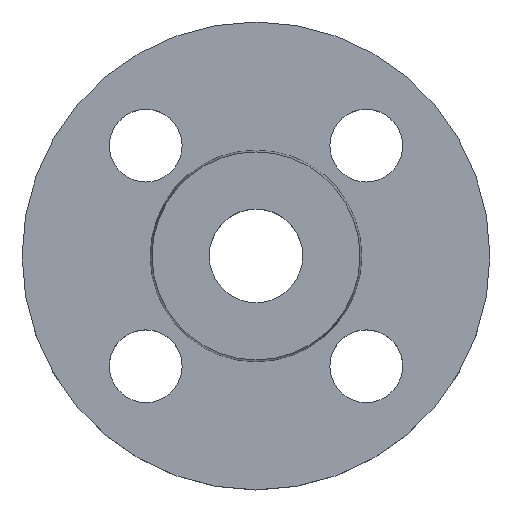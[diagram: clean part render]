
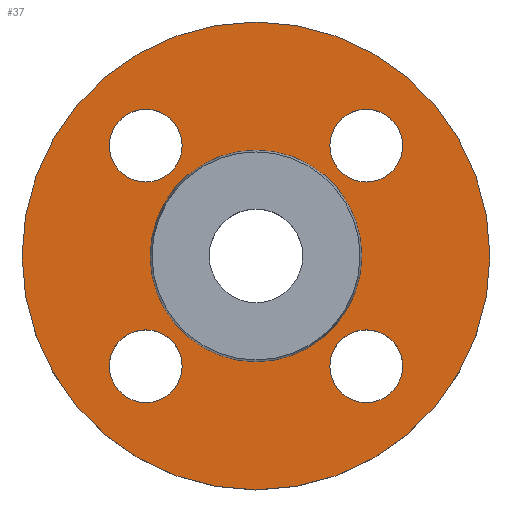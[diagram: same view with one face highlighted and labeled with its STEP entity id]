
A CAD part, top view. The second image highlights one B-rep face of the part: STEP entity #37.
In plain terms, the highlighted planar face has unit normal (0, 0, 1).
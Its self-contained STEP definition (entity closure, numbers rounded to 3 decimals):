
#1 = AXIS2_PLACEMENT_3D ( 'NONE', #671, #672, #673 ) ;
#11 = AXIS2_PLACEMENT_3D ( 'NONE', #332, #333, #334 ) ;
#12 = EDGE_CURVE ( 'NONE', #386, #395, #361, .T. ) ;
#18 = CARTESIAN_POINT ( 'NONE',  ( 14.213, -21.213, -2. ) ) ;
#21 = EDGE_CURVE ( 'NONE', #591, #414, #360, .T. ) ;
#26 = EDGE_CURVE ( 'NONE', #415, #455, #387, .T. ) ;
#28 = EDGE_CURVE ( 'NONE', #433, #422, #701, .T. ) ;
#32 = EDGE_CURVE ( 'NONE', #414, #591, #240, .T. ) ;
#37 = ADVANCED_FACE ( 'NONE', ( #675, #676, #677, #678, #679, #680 ), #681, .T. ) ;
#76 = CARTESIAN_POINT ( 'NONE',  ( -14.213, -21.213, -2. ) ) ;
#78 = CARTESIAN_POINT ( 'NONE',  ( -28.213, 21.213, -2. ) ) ;
#99 = CARTESIAN_POINT ( 'NONE',  ( 14.213, 21.213, -2. ) ) ;
#103 = EDGE_CURVE ( 'NONE', #574, #576, #375, .T. ) ;
#104 = EDGE_CURVE ( 'NONE', #395, #386, #419, .T. ) ;
#109 = AXIS2_PLACEMENT_3D ( 'NONE', #711, #204, #207 ) ;
#115 = AXIS2_PLACEMENT_3D ( 'NONE', #273, #276, #278 ) ;
#118 = CARTESIAN_POINT ( 'NONE',  ( -45., 0., -2. ) ) ;
#125 = AXIS2_PLACEMENT_3D ( 'NONE', #659, #660, #661 ) ;
#128 = AXIS2_PLACEMENT_3D ( 'NONE', #299, #300, #301 ) ;
#130 = CIRCLE ( 'NONE', #128, 7. ) ;
#140 = CARTESIAN_POINT ( 'NONE',  ( 45., 0., -2. ) ) ;
#141 = CARTESIAN_POINT ( 'NONE',  ( 20.353, 0., -2. ) ) ;
#142 = CARTESIAN_POINT ( 'NONE',  ( -28.213, -21.213, -2. ) ) ;
#154 = CARTESIAN_POINT ( 'NONE',  ( -21.213, -21.213, -2. ) ) ;
#155 = AXIS2_PLACEMENT_3D ( 'NONE', #621, #622, #623 ) ;
#157 = CARTESIAN_POINT ( 'NONE',  ( 28.213, -21.213, -2. ) ) ;
#161 = CARTESIAN_POINT ( 'NONE',  ( -20.353, 0., -2. ) ) ;
#173 = DIRECTION ( 'NONE',  ( 1., 0., 0. ) ) ;
#178 = EDGE_CURVE ( 'NONE', #576, #574, #568, .T. ) ;
#190 = CIRCLE ( 'NONE', #115, 20.353 ) ;
#193 = CIRCLE ( 'NONE', #11, 7. ) ;
#200 = CARTESIAN_POINT ( 'NONE',  ( 28.213, 21.213, -2. ) ) ;
#204 = DIRECTION ( 'NONE',  ( 0., 0., -1. ) ) ;
#206 = DIRECTION ( 'NONE',  ( 0., 0., -1. ) ) ;
#207 = DIRECTION ( 'NONE',  ( 1., 0., 0. ) ) ;
#208 = CARTESIAN_POINT ( 'NONE',  ( 0., 0., -2. ) ) ;
#209 = DIRECTION ( 'NONE',  ( 0., 0., -1. ) ) ;
#210 = DIRECTION ( 'NONE',  ( -1., 0., 0. ) ) ;
#229 = AXIS2_PLACEMENT_3D ( 'NONE', #208, #209, #210 ) ;
#234 = AXIS2_PLACEMENT_3D ( 'NONE', #645, #646, #647 ) ;
#238 = EDGE_CURVE ( 'NONE', #422, #433, #190, .T. ) ;
#240 = CIRCLE ( 'NONE', #1, 7. ) ;
#248 = CARTESIAN_POINT ( 'NONE',  ( 21.213, 21.213, -2. ) ) ;
#249 = DIRECTION ( 'NONE',  ( 0., 0., -1. ) ) ;
#251 = DIRECTION ( 'NONE',  ( 1., 0., 0. ) ) ;
#260 = AXIS2_PLACEMENT_3D ( 'NONE', #248, #249, #251 ) ;
#273 = CARTESIAN_POINT ( 'NONE',  ( 0., 0., -2. ) ) ;
#276 = DIRECTION ( 'NONE',  ( 0., 0., -1. ) ) ;
#278 = DIRECTION ( 'NONE',  ( -1., 0., 0. ) ) ;
#299 = CARTESIAN_POINT ( 'NONE',  ( -21.213, -21.213, -2. ) ) ;
#300 = DIRECTION ( 'NONE',  ( 0., 0., -1. ) ) ;
#301 = DIRECTION ( 'NONE',  ( 1., 0., 0. ) ) ;
#332 = CARTESIAN_POINT ( 'NONE',  ( 21.213, -21.213, -2. ) ) ;
#333 = DIRECTION ( 'NONE',  ( 0., 0., -1. ) ) ;
#334 = DIRECTION ( 'NONE',  ( 1., 0., 0. ) ) ;
#341 = EDGE_CURVE ( 'NONE', #592, #424, #130, .T. ) ;
#346 = CARTESIAN_POINT ( 'NONE',  ( -14.213, 21.213, -2. ) ) ;
#350 = AXIS2_PLACEMENT_3D ( 'NONE', #682, #683, #685 ) ;
#360 = CIRCLE ( 'NONE', #234, 7. ) ;
#361 = CIRCLE ( 'NONE', #155, 45. ) ;
#362 = AXIS2_PLACEMENT_3D ( 'NONE', #154, #206, #173 ) ;
#364 = CIRCLE ( 'NONE', #362, 7. ) ;
#370 = EDGE_CURVE ( 'NONE', #455, #415, #193, .T. ) ;
#372 = AXIS2_PLACEMENT_3D ( 'NONE', #653, #654, #655 ) ;
#375 = CIRCLE ( 'NONE', #109, 7. ) ;
#382 = EDGE_LOOP ( 'NONE', ( #496, #497 ) ) ;
#386 = VERTEX_POINT ( 'NONE', #118 ) ;
#387 = CIRCLE ( 'NONE', #372, 7. ) ;
#395 = VERTEX_POINT ( 'NONE', #140 ) ;
#411 = EDGE_LOOP ( 'NONE', ( #501, #502 ) ) ;
#414 = VERTEX_POINT ( 'NONE', #346 ) ;
#415 = VERTEX_POINT ( 'NONE', #18 ) ;
#418 = EDGE_LOOP ( 'NONE', ( #493, #495 ) ) ;
#419 = CIRCLE ( 'NONE', #229, 45. ) ;
#421 = EDGE_LOOP ( 'NONE', ( #507, #508 ) ) ;
#422 = VERTEX_POINT ( 'NONE', #141 ) ;
#424 = VERTEX_POINT ( 'NONE', #142 ) ;
#433 = VERTEX_POINT ( 'NONE', #161 ) ;
#455 = VERTEX_POINT ( 'NONE', #157 ) ;
#493 = ORIENTED_EDGE ( 'NONE', *, *, #370, .T. ) ;
#495 = ORIENTED_EDGE ( 'NONE', *, *, #26, .T. ) ;
#496 = ORIENTED_EDGE ( 'NONE', *, *, #341, .T. ) ;
#497 = ORIENTED_EDGE ( 'NONE', *, *, #513, .T. ) ;
#498 = ORIENTED_EDGE ( 'NONE', *, *, #32, .T. ) ;
#499 = ORIENTED_EDGE ( 'NONE', *, *, #21, .T. ) ;
#500 = EDGE_LOOP ( 'NONE', ( #498, #499 ) ) ;
#501 = ORIENTED_EDGE ( 'NONE', *, *, #103, .T. ) ;
#502 = ORIENTED_EDGE ( 'NONE', *, *, #178, .T. ) ;
#504 = ORIENTED_EDGE ( 'NONE', *, *, #28, .T. ) ;
#505 = ORIENTED_EDGE ( 'NONE', *, *, #238, .T. ) ;
#507 = ORIENTED_EDGE ( 'NONE', *, *, #104, .F. ) ;
#508 = ORIENTED_EDGE ( 'NONE', *, *, #12, .F. ) ;
#513 = EDGE_CURVE ( 'NONE', #424, #592, #364, .T. ) ;
#568 = CIRCLE ( 'NONE', #260, 7. ) ;
#572 = EDGE_LOOP ( 'NONE', ( #504, #505 ) ) ;
#574 = VERTEX_POINT ( 'NONE', #200 ) ;
#576 = VERTEX_POINT ( 'NONE', #99 ) ;
#591 = VERTEX_POINT ( 'NONE', #78 ) ;
#592 = VERTEX_POINT ( 'NONE', #76 ) ;
#621 = CARTESIAN_POINT ( 'NONE',  ( 0., 0., -2. ) ) ;
#622 = DIRECTION ( 'NONE',  ( 0., 0., -1. ) ) ;
#623 = DIRECTION ( 'NONE',  ( -1., 0., 0. ) ) ;
#645 = CARTESIAN_POINT ( 'NONE',  ( -21.213, 21.213, -2. ) ) ;
#646 = DIRECTION ( 'NONE',  ( 0., 0., -1. ) ) ;
#647 = DIRECTION ( 'NONE',  ( 1., 0., 0. ) ) ;
#653 = CARTESIAN_POINT ( 'NONE',  ( 21.213, -21.213, -2. ) ) ;
#654 = DIRECTION ( 'NONE',  ( 0., 0., -1. ) ) ;
#655 = DIRECTION ( 'NONE',  ( 1., 0., 0. ) ) ;
#659 = CARTESIAN_POINT ( 'NONE',  ( 0., 0., -2. ) ) ;
#660 = DIRECTION ( 'NONE',  ( 0., 0., -1. ) ) ;
#661 = DIRECTION ( 'NONE',  ( -1., 0., 0. ) ) ;
#671 = CARTESIAN_POINT ( 'NONE',  ( -21.213, 21.213, -2. ) ) ;
#672 = DIRECTION ( 'NONE',  ( 0., 0., -1. ) ) ;
#673 = DIRECTION ( 'NONE',  ( 1., 0., 0. ) ) ;
#675 = FACE_BOUND ( 'NONE', #418, .T. ) ;
#676 = FACE_BOUND ( 'NONE', #382, .T. ) ;
#677 = FACE_BOUND ( 'NONE', #500, .T. ) ;
#678 = FACE_BOUND ( 'NONE', #411, .T. ) ;
#679 = FACE_BOUND ( 'NONE', #572, .T. ) ;
#680 = FACE_OUTER_BOUND ( 'NONE', #421, .T. ) ;
#681 = PLANE ( 'NONE',  #350 ) ;
#682 = CARTESIAN_POINT ( 'NONE',  ( 20.353, 0., -2. ) ) ;
#683 = DIRECTION ( 'NONE',  ( 0., 0., 1. ) ) ;
#685 = DIRECTION ( 'NONE',  ( 1., 0., 0. ) ) ;
#701 = CIRCLE ( 'NONE', #125, 20.353 ) ;
#711 = CARTESIAN_POINT ( 'NONE',  ( 21.213, 21.213, -2. ) ) ;
